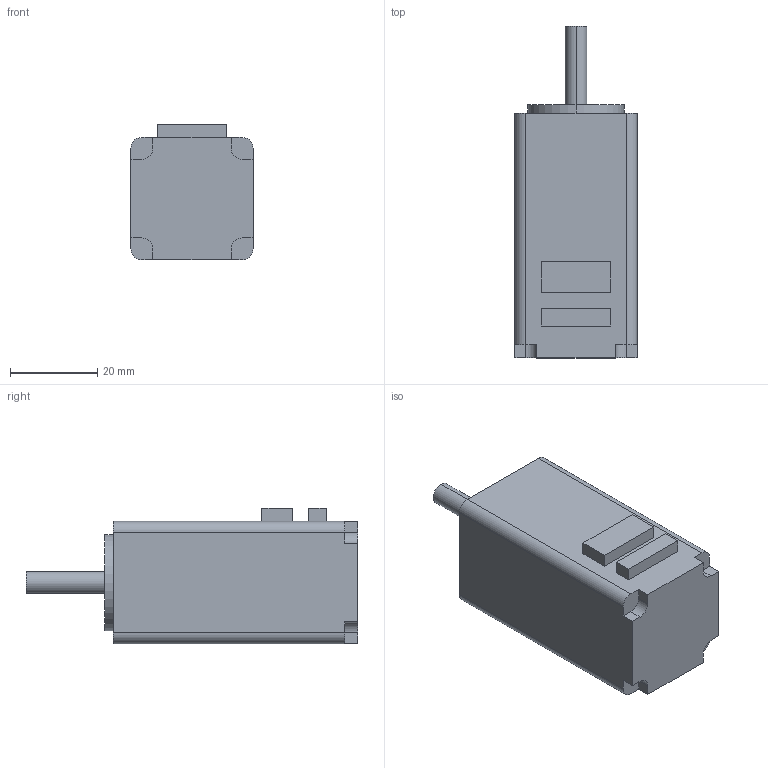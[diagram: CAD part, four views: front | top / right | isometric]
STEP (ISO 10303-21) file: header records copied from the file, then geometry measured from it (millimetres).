
FILE_DESCRIPTION (( 'STEP AP214' ), '1' );
FILE_NAME ('28HSM41S403G0520-001.STEP', '2019-10-15T07:27:12', ( 'wimxt.com' ), ( 'wimxt.com' ), 'SwSTEP 2.0', 'SolidWorks 2014', '' );
FILE_SCHEMA (( 'AUTOMOTIVE_DESIGN' ));
Length unit declared in the file: millimetre
Products named in the file (1): 28HSM41S403G0520-001
Bounding box: 28 x 76 x 31 mm (x, y, z)
Volume: 44898.9 mm3; surface area: 8393.6 mm2
Topology: 1 solids, 1 shells, 54 faces, 132 edges, 88 vertices
Faces by surface type: plane 34, cylinder 20
Entity records: 1630 total; most frequent: DIRECTION 282, CARTESIAN_POINT 275, ORIENTED_EDGE 264, EDGE_CURVE 132, AXIS2_PLACEMENT_3D 95, VECTOR 92, LINE 92, VERTEX_POINT 88
